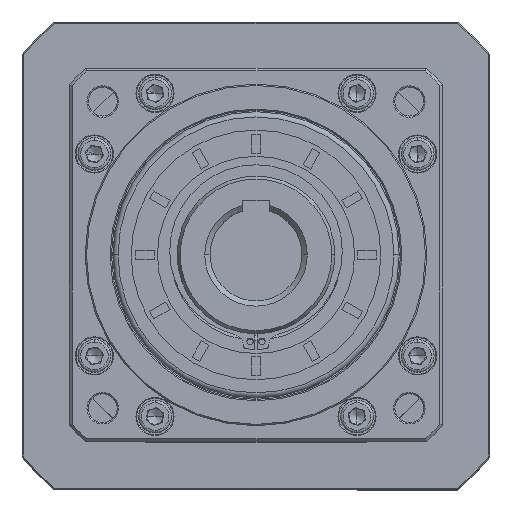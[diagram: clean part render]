
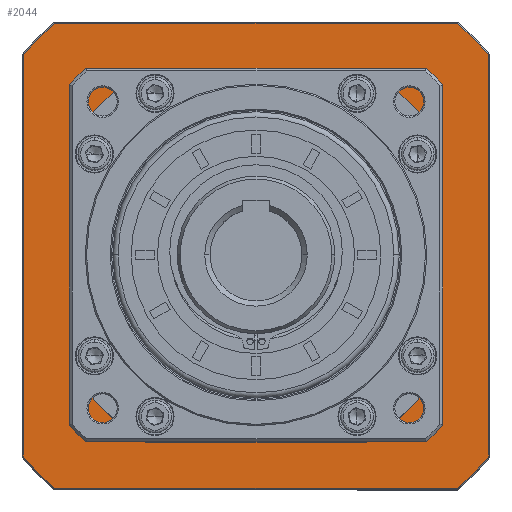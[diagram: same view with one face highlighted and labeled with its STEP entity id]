
A CAD part, top view. The second image highlights one B-rep face of the part: STEP entity #2044.
In plain terms, the highlighted planar face has unit normal (0, 0, 1).
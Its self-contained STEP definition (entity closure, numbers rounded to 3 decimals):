
#331 = CIRCLE ( 'NONE', #94720, 82. ) ;
#522 = VERTEX_POINT ( 'NONE', #116585 ) ;
#642 = EDGE_CURVE ( 'NONE', #11031, #6386, #46642, .T. ) ;
#1257 = DIRECTION ( 'NONE',  ( 1., 0., 0. ) ) ;
#2044 = ADVANCED_FACE ( 'NONE', ( #12901, #20223 ), #101830, .F. ) ;
#2991 = DIRECTION ( 'NONE',  ( 0., 0., -1. ) ) ;
#2993 = CARTESIAN_POINT ( 'NONE',  ( 262.937, -248.278, 165.15 ) ) ;
#3139 = DIRECTION ( 'NONE',  ( -1., 0., 0. ) ) ;
#3330 = CARTESIAN_POINT ( 'NONE',  ( 97.907, -159.778, 165.15 ) ) ;
#3723 = ORIENTED_EDGE ( 'NONE', *, *, #5483, .T. ) ;
#3899 = CARTESIAN_POINT ( 'NONE',  ( 186.407, -159.778, 165.15 ) ) ;
#4049 = DIRECTION ( 'NONE',  ( 0., 0., -1. ) ) ;
#4382 = VECTOR ( 'NONE', #7253, 1000. ) ;
#5442 = VERTEX_POINT ( 'NONE', #60265 ) ;
#5483 = EDGE_CURVE ( 'NONE', #29761, #42608, #7277, .T. ) ;
#6386 = VERTEX_POINT ( 'NONE', #34942 ) ;
#7131 = EDGE_CURVE ( 'NONE', #5442, #522, #7975, .T. ) ;
#7253 = DIRECTION ( 'NONE',  ( 1., 0., 0. ) ) ;
#7277 = LINE ( 'NONE', #44819, #4382 ) ;
#7975 = LINE ( 'NONE', #77942, #100366 ) ;
#8286 = CIRCLE ( 'NONE', #81009, 117. ) ;
#11031 = VERTEX_POINT ( 'NONE', #112895 ) ;
#11610 = LINE ( 'NONE', #52791, #30430 ) ;
#11986 = CIRCLE ( 'NONE', #20269, 117. ) ;
#12442 = CIRCLE ( 'NONE', #77121, 82. ) ;
#12901 = FACE_OUTER_BOUND ( 'NONE', #111420, .T. ) ;
#16305 = ORIENTED_EDGE ( 'NONE', *, *, #100909, .T. ) ;
#19194 = CARTESIAN_POINT ( 'NONE',  ( 186.407, -159.778, 165.15 ) ) ;
#19284 = VERTEX_POINT ( 'NONE', #46641 ) ;
#19739 = CIRCLE ( 'NONE', #71371, 117. ) ;
#20223 = FACE_BOUND ( 'NONE', #34466, .T. ) ;
#20269 = AXIS2_PLACEMENT_3D ( 'NONE', #92185, #36944, #101760 ) ;
#20447 = VERTEX_POINT ( 'NONE', #41879 ) ;
#21822 = AXIS2_PLACEMENT_3D ( 'NONE', #83317, #27193, #1257 ) ;
#24117 = CARTESIAN_POINT ( 'NONE',  ( 256.907, -201.656, 165.15 ) ) ;
#24199 = EDGE_CURVE ( 'NONE', #114267, #97776, #67607, .T. ) ;
#24991 = VERTEX_POINT ( 'NONE', #33112 ) ;
#25123 = ORIENTED_EDGE ( 'NONE', *, *, #73536, .T. ) ;
#25211 = CARTESIAN_POINT ( 'NONE',  ( 97.907, -83.248, 165.15 ) ) ;
#26416 = VERTEX_POINT ( 'NONE', #24117 ) ;
#27193 = DIRECTION ( 'NONE',  ( 0., 0., -1. ) ) ;
#28449 = CIRCLE ( 'NONE', #21822, 82. ) ;
#29761 = VERTEX_POINT ( 'NONE', #96537 ) ;
#30430 = VECTOR ( 'NONE', #117180, 1000. ) ;
#30900 = AXIS2_PLACEMENT_3D ( 'NONE', #92117, #92529, #46512 ) ;
#32762 = VECTOR ( 'NONE', #111247, 1000. ) ;
#33112 = CARTESIAN_POINT ( 'NONE',  ( 144.53, -230.278, 165.15 ) ) ;
#34116 = CARTESIAN_POINT ( 'NONE',  ( 186.407, -159.778, 165.15 ) ) ;
#34466 = EDGE_LOOP ( 'NONE', ( #112265, #80624, #103163, #97654, #25123, #51878, #35202, #56984 ) ) ;
#34942 = CARTESIAN_POINT ( 'NONE',  ( 115.907, -117.9, 165.15 ) ) ;
#35202 = ORIENTED_EDGE ( 'NONE', *, *, #90892, .T. ) ;
#36335 = CARTESIAN_POINT ( 'NONE',  ( 228.285, -89.278, 165.15 ) ) ;
#36944 = DIRECTION ( 'NONE',  ( 0., 0., 1. ) ) ;
#37421 = DIRECTION ( 'NONE',  ( -1., 0., 0. ) ) ;
#39490 = VECTOR ( 'NONE', #56884, 1000. ) ;
#41559 = EDGE_CURVE ( 'NONE', #108358, #19284, #28449, .T. ) ;
#41879 = CARTESIAN_POINT ( 'NONE',  ( 274.907, -83.248, 165.15 ) ) ;
#42608 = VERTEX_POINT ( 'NONE', #2993 ) ;
#44167 = DIRECTION ( 'NONE',  ( -1., 0., 0. ) ) ;
#44365 = EDGE_CURVE ( 'NONE', #111998, #20447, #106261, .T. ) ;
#44819 = CARTESIAN_POINT ( 'NONE',  ( 186.407, -248.278, 165.15 ) ) ;
#44843 = CARTESIAN_POINT ( 'NONE',  ( 274.907, -159.778, 165.15 ) ) ;
#45845 = DIRECTION ( 'NONE',  ( 0., 0., 1. ) ) ;
#46512 = DIRECTION ( 'NONE',  ( 1., 0., 0. ) ) ;
#46641 = CARTESIAN_POINT ( 'NONE',  ( 256.907, -117.9, 165.15 ) ) ;
#46642 = LINE ( 'NONE', #85154, #39490 ) ;
#47049 = DIRECTION ( 'NONE',  ( -1., 0., 0. ) ) ;
#50158 = VERTEX_POINT ( 'NONE', #54866 ) ;
#51878 = ORIENTED_EDGE ( 'NONE', *, *, #115484, .T. ) ;
#52698 = EDGE_CURVE ( 'NONE', #42608, #111998, #105237, .T. ) ;
#52791 = CARTESIAN_POINT ( 'NONE',  ( 256.907, -201.793, 165.15 ) ) ;
#53745 = CIRCLE ( 'NONE', #30900, 82. ) ;
#54866 = CARTESIAN_POINT ( 'NONE',  ( 228.285, -230.278, 165.15 ) ) ;
#55133 = EDGE_CURVE ( 'NONE', #84387, #108358, #95469, .T. ) ;
#56596 = EDGE_CURVE ( 'NONE', #522, #114267, #8286, .T. ) ;
#56884 = DIRECTION ( 'NONE',  ( 0., 1., 0. ) ) ;
#56984 = ORIENTED_EDGE ( 'NONE', *, *, #642, .T. ) ;
#58710 = EDGE_CURVE ( 'NONE', #6386, #84387, #53745, .T. ) ;
#59505 = CARTESIAN_POINT ( 'NONE',  ( 144.53, -89.278, 165.15 ) ) ;
#59690 = DIRECTION ( 'NONE',  ( 0., 0., 1. ) ) ;
#60250 = CARTESIAN_POINT ( 'NONE',  ( 97.907, -236.307, 165.15 ) ) ;
#60265 = CARTESIAN_POINT ( 'NONE',  ( 262.937, -71.278, 165.15 ) ) ;
#61153 = ORIENTED_EDGE ( 'NONE', *, *, #7131, .T. ) ;
#66550 = DIRECTION ( 'NONE',  ( 1., 0., 0. ) ) ;
#67276 = AXIS2_PLACEMENT_3D ( 'NONE', #19194, #111064, #37421 ) ;
#67607 = LINE ( 'NONE', #3330, #103535 ) ;
#67989 = CARTESIAN_POINT ( 'NONE',  ( 186.407, -159.778, 165.15 ) ) ;
#68173 = VECTOR ( 'NONE', #115300, 1000. ) ;
#68637 = DIRECTION ( 'NONE',  ( -1., 0., 0. ) ) ;
#68793 = DIRECTION ( 'NONE',  ( 1., 0., 0. ) ) ;
#69133 = ORIENTED_EDGE ( 'NONE', *, *, #52698, .T. ) ;
#71371 = AXIS2_PLACEMENT_3D ( 'NONE', #34116, #107792, #44167 ) ;
#73536 = EDGE_CURVE ( 'NONE', #26416, #50158, #12442, .T. ) ;
#76497 = LINE ( 'NONE', #104754, #112397 ) ;
#76546 = DIRECTION ( 'NONE',  ( 0., -1., 0. ) ) ;
#77121 = AXIS2_PLACEMENT_3D ( 'NONE', #67989, #4049, #68793 ) ;
#77942 = CARTESIAN_POINT ( 'NONE',  ( 186.407, -71.278, 165.15 ) ) ;
#80624 = ORIENTED_EDGE ( 'NONE', *, *, #55133, .T. ) ;
#81009 = AXIS2_PLACEMENT_3D ( 'NONE', #3899, #59690, #68637 ) ;
#83317 = CARTESIAN_POINT ( 'NONE',  ( 186.407, -159.778, 165.15 ) ) ;
#84387 = VERTEX_POINT ( 'NONE', #59505 ) ;
#85154 = CARTESIAN_POINT ( 'NONE',  ( 115.907, -117.763, 165.15 ) ) ;
#87145 = DIRECTION ( 'NONE',  ( -1., 0., 0. ) ) ;
#88643 = CARTESIAN_POINT ( 'NONE',  ( 274.907, -236.307, 165.15 ) ) ;
#90892 = EDGE_CURVE ( 'NONE', #24991, #11031, #331, .T. ) ;
#91287 = ORIENTED_EDGE ( 'NONE', *, *, #95731, .T. ) ;
#92117 = CARTESIAN_POINT ( 'NONE',  ( 186.407, -159.778, 165.15 ) ) ;
#92185 = CARTESIAN_POINT ( 'NONE',  ( 186.407, -159.778, 165.15 ) ) ;
#92529 = DIRECTION ( 'NONE',  ( 0., 0., -1. ) ) ;
#94687 = CARTESIAN_POINT ( 'NONE',  ( 186.407, -159.778, 165.15 ) ) ;
#94720 = AXIS2_PLACEMENT_3D ( 'NONE', #94687, #2991, #66550 ) ;
#95469 = LINE ( 'NONE', #114916, #68173 ) ;
#95731 = EDGE_CURVE ( 'NONE', #20447, #5442, #11986, .T. ) ;
#96537 = CARTESIAN_POINT ( 'NONE',  ( 109.878, -248.278, 165.15 ) ) ;
#97654 = ORIENTED_EDGE ( 'NONE', *, *, #117356, .T. ) ;
#97776 = VERTEX_POINT ( 'NONE', #60250 ) ;
#99003 = ORIENTED_EDGE ( 'NONE', *, *, #56596, .T. ) ;
#100366 = VECTOR ( 'NONE', #3139, 1000. ) ;
#100375 = ORIENTED_EDGE ( 'NONE', *, *, #44365, .T. ) ;
#100909 = EDGE_CURVE ( 'NONE', #97776, #29761, #19739, .T. ) ;
#101051 = CARTESIAN_POINT ( 'NONE',  ( 186.407, -159.778, 165.15 ) ) ;
#101760 = DIRECTION ( 'NONE',  ( -1., 0., 0. ) ) ;
#101830 = PLANE ( 'NONE',  #67276 ) ;
#103163 = ORIENTED_EDGE ( 'NONE', *, *, #41559, .T. ) ;
#103535 = VECTOR ( 'NONE', #76546, 1000. ) ;
#104303 = AXIS2_PLACEMENT_3D ( 'NONE', #101051, #45845, #47049 ) ;
#104754 = CARTESIAN_POINT ( 'NONE',  ( 144.392, -230.278, 165.15 ) ) ;
#105237 = CIRCLE ( 'NONE', #104303, 117. ) ;
#106261 = LINE ( 'NONE', #44843, #32762 ) ;
#107792 = DIRECTION ( 'NONE',  ( 0., 0., 1. ) ) ;
#108358 = VERTEX_POINT ( 'NONE', #36335 ) ;
#111064 = DIRECTION ( 'NONE',  ( 0., 0., -1. ) ) ;
#111247 = DIRECTION ( 'NONE',  ( 0., 1., 0. ) ) ;
#111420 = EDGE_LOOP ( 'NONE', ( #119698, #16305, #3723, #69133, #100375, #91287, #61153, #99003 ) ) ;
#111998 = VERTEX_POINT ( 'NONE', #88643 ) ;
#112265 = ORIENTED_EDGE ( 'NONE', *, *, #58710, .T. ) ;
#112397 = VECTOR ( 'NONE', #87145, 1000. ) ;
#112895 = CARTESIAN_POINT ( 'NONE',  ( 115.907, -201.656, 165.15 ) ) ;
#114267 = VERTEX_POINT ( 'NONE', #25211 ) ;
#114916 = CARTESIAN_POINT ( 'NONE',  ( 228.422, -89.278, 165.15 ) ) ;
#115300 = DIRECTION ( 'NONE',  ( 1., 0., 0. ) ) ;
#115484 = EDGE_CURVE ( 'NONE', #50158, #24991, #76497, .T. ) ;
#116585 = CARTESIAN_POINT ( 'NONE',  ( 109.878, -71.278, 165.15 ) ) ;
#117180 = DIRECTION ( 'NONE',  ( 0., -1., 0. ) ) ;
#117356 = EDGE_CURVE ( 'NONE', #19284, #26416, #11610, .T. ) ;
#119698 = ORIENTED_EDGE ( 'NONE', *, *, #24199, .T. ) ;
